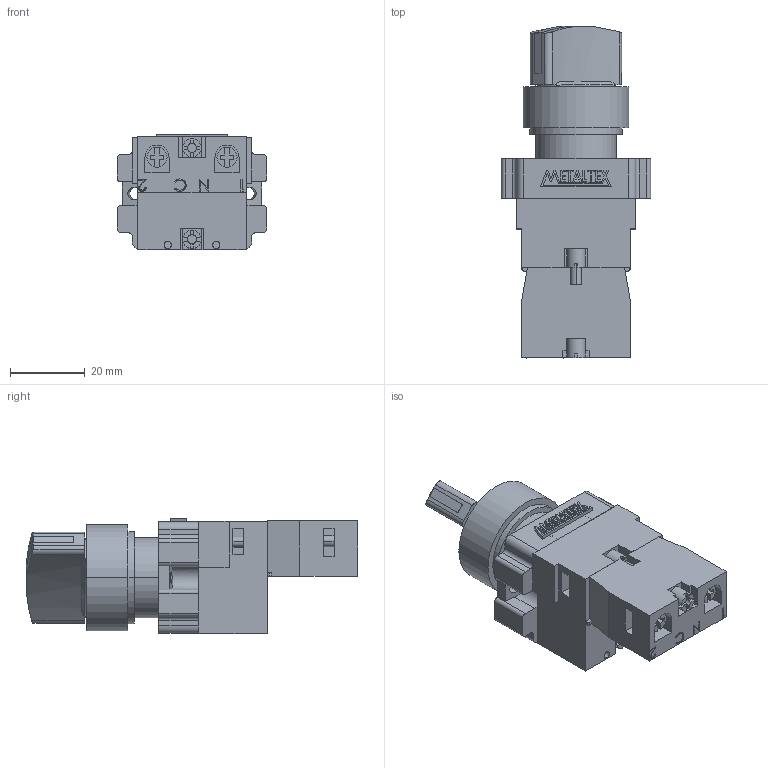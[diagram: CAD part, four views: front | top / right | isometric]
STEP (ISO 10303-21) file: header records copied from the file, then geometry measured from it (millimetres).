
FILE_DESCRIPTION (( 'STEP AP203' ), '1' );
FILE_NAME ('M20ICR2-R-1A.STEP', '2018-01-17T13:50:00', ( '' ), ( '' ), 'SwSTEP 2.0', 'SolidWorks 2012', '' );
FILE_SCHEMA (( 'CONFIG_CONTROL_DESIGN' ));
Length unit declared in the file: millimetre
Products named in the file (5): M20ICR2; M20-IL; M20-1B; METALTEX 18,98; M20ICR2-R-1A
Assembly tree (4 placements, depth 2):
  M20ICR2-R-1A
    M20ICR2
    M20-IL
    M20-1B
    METALTEX 18,98
Bounding box: 40 x 88.96 x 31.02 mm (x, y, z)
Volume: 49392.2 mm3; surface area: 17583.5 mm2
Topology: 10 solids, 10 shells, 525 faces, 1373 edges, 911 vertices
Faces by surface type: plane 368, cylinder 121, bspline 24, torus 12
Entity records: 18538 total; most frequent: CARTESIAN_POINT 4946, ORIENTED_EDGE 2746, DIRECTION 2647, EDGE_CURVE 1373, VECTOR 977, LINE 977, VERTEX_POINT 911, AXIS2_PLACEMENT_3D 835
